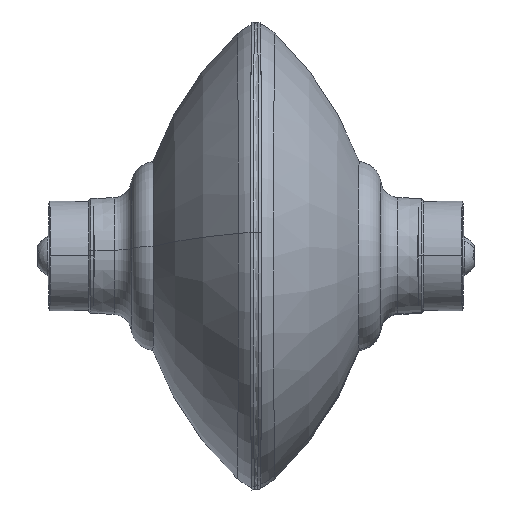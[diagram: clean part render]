
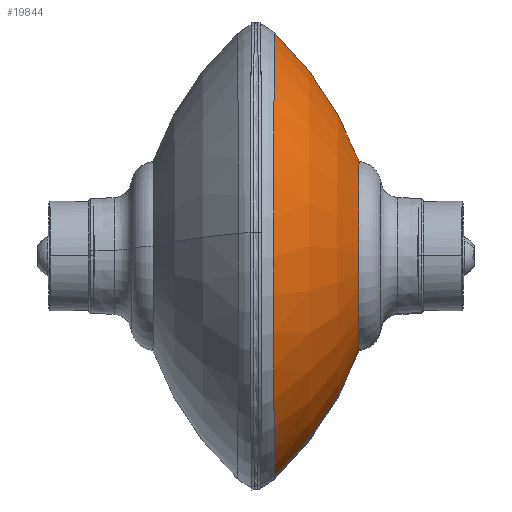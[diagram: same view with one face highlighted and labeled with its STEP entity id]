
A CAD part, top view. The second image highlights one B-rep face of the part: STEP entity #19844.
In plain terms, the highlighted toroidal (fillet/blend) face has major radius 3.6 mm and minor radius 80 mm.
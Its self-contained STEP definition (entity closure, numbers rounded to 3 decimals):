
#344 = CIRCLE ( 'NONE', #25306, 23.319 ) ;
#1866 = AXIS2_PLACEMENT_3D ( 'NONE', #34890, #42271, #38479 ) ;
#2646 = FACE_OUTER_BOUND ( 'NONE', #3063, .T. ) ;
#3063 = EDGE_LOOP ( 'NONE', ( #10053, #22579, #19985, #14696 ) ) ;
#3882 = DIRECTION ( 'NONE',  ( 0., 0., -1. ) ) ;
#4340 = CARTESIAN_POINT ( 'NONE',  ( 0., 26.417, 23.319 ) ) ;
#4679 = EDGE_CURVE ( 'NONE', #42287, #41617, #20379, .T. ) ;
#5378 = VERTEX_POINT ( 'NONE', #20643 ) ;
#5579 = EDGE_CURVE ( 'NONE', #5378, #13866, #33139, .T. ) ;
#7553 = CARTESIAN_POINT ( 'NONE',  ( 0., 26.417, 0. ) ) ;
#10053 = ORIENTED_EDGE ( 'NONE', *, *, #4679, .F. ) ;
#10321 = DIRECTION ( 'NONE',  ( 0., 0., 1. ) ) ;
#11286 = AXIS2_PLACEMENT_3D ( 'NONE', #29885, #43538, #38786 ) ;
#11345 = DIRECTION ( 'NONE',  ( 0., 0., 1. ) ) ;
#12953 = EDGE_CURVE ( 'NONE', #41617, #13866, #344, .T. ) ;
#13866 = VERTEX_POINT ( 'NONE', #4340 ) ;
#14688 = DIRECTION ( 'NONE',  ( 0., 1., 0. ) ) ;
#14696 = ORIENTED_EDGE ( 'NONE', *, *, #12953, .F. ) ;
#17012 = EDGE_CURVE ( 'NONE', #42287, #5378, #36847, .T. ) ;
#17463 = AXIS2_PLACEMENT_3D ( 'NONE', #31295, #40493, #10321 ) ;
#19844 = ADVANCED_FACE ( 'NONE', ( #2646 ), #30520, .T. ) ;
#19985 = ORIENTED_EDGE ( 'NONE', *, *, #5579, .T. ) ;
#20379 = CIRCLE ( 'NONE', #36800, 80. ) ;
#20643 = CARTESIAN_POINT ( 'NONE',  ( 0., 5.693, 54.861 ) ) ;
#22579 = ORIENTED_EDGE ( 'NONE', *, *, #17012, .T. ) ;
#25306 = AXIS2_PLACEMENT_3D ( 'NONE', #7553, #14688, #11345 ) ;
#26878 = DIRECTION ( 'NONE',  ( 1., 0., 0. ) ) ;
#29885 = CARTESIAN_POINT ( 'NONE',  ( 0., -48.918, 0. ) ) ;
#30520 = TOROIDAL_SURFACE ( 'NONE', #11286, -3.6, 80. ) ;
#31295 = CARTESIAN_POINT ( 'NONE',  ( 0., -48.918, -3.6 ) ) ;
#33139 = CIRCLE ( 'NONE', #17463, 80. ) ;
#33587 = CARTESIAN_POINT ( 'NONE',  ( 0., -48.918, 3.6 ) ) ;
#34890 = CARTESIAN_POINT ( 'NONE',  ( 0., 5.693, 0. ) ) ;
#36800 = AXIS2_PLACEMENT_3D ( 'NONE', #33587, #26878, #3882 ) ;
#36847 = CIRCLE ( 'NONE', #1866, 54.861 ) ;
#37260 = CARTESIAN_POINT ( 'NONE',  ( 0., 5.693, -54.861 ) ) ;
#38479 = DIRECTION ( 'NONE',  ( 0., 0., 1. ) ) ;
#38786 = DIRECTION ( 'NONE',  ( 0., 0., 1. ) ) ;
#40493 = DIRECTION ( 'NONE',  ( -1., 0., 0. ) ) ;
#41617 = VERTEX_POINT ( 'NONE', #42698 ) ;
#42271 = DIRECTION ( 'NONE',  ( 0., 1., 0. ) ) ;
#42287 = VERTEX_POINT ( 'NONE', #37260 ) ;
#42698 = CARTESIAN_POINT ( 'NONE',  ( 0., 26.417, -23.319 ) ) ;
#43538 = DIRECTION ( 'NONE',  ( 0., 1., 0. ) ) ;
